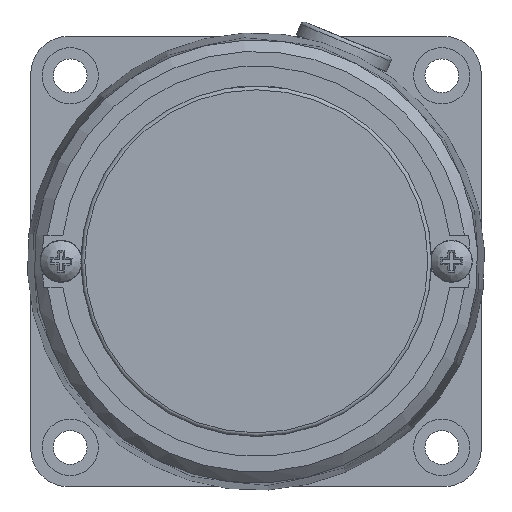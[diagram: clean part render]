
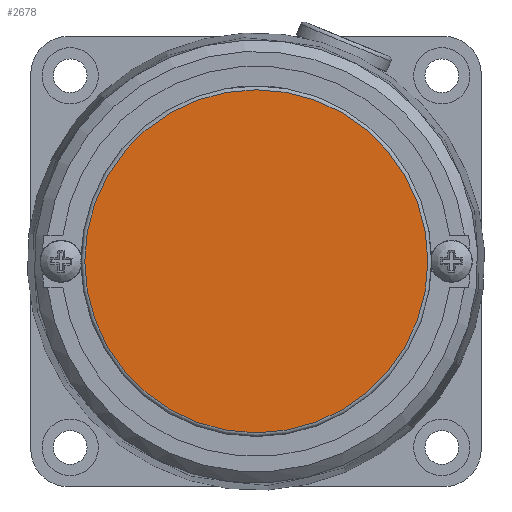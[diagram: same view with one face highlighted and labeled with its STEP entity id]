
A CAD part, left-side view. The second image highlights one B-rep face of the part: STEP entity #2678.
In plain terms, the highlighted planar face has unit normal (-1, 0, 0).
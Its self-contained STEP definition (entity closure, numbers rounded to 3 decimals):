
#574=PLANE('',#2867);
#669=FACE_OUTER_BOUND('',#826,.T.);
#826=EDGE_LOOP('',(#1873));
#1002=CIRCLE('',#2863,22.85);
#1153=VERTEX_POINT('',#3998);
#1424=EDGE_CURVE('',#1153,#1153,#1002,.T.);
#1873=ORIENTED_EDGE('',*,*,#1424,.F.);
#2678=ADVANCED_FACE('',(#669),#574,.T.);
#2863=AXIS2_PLACEMENT_3D('',#4000,#3196,#3197);
#2867=AXIS2_PLACEMENT_3D('',#4232,#3209,#3210);
#3196=DIRECTION('center_axis',(1.,0.,0.));
#3197=DIRECTION('ref_axis',(0.,0.,1.));
#3209=DIRECTION('center_axis',(-1.,0.,0.));
#3210=DIRECTION('ref_axis',(0.,-1.,0.));
#3998=CARTESIAN_POINT('',(-47.9,-0.037,22.887));
#4000=CARTESIAN_POINT('Origin',(-47.9,-0.037,0.037));
#4232=CARTESIAN_POINT('Origin',(-47.9,-0.037,19.212));
